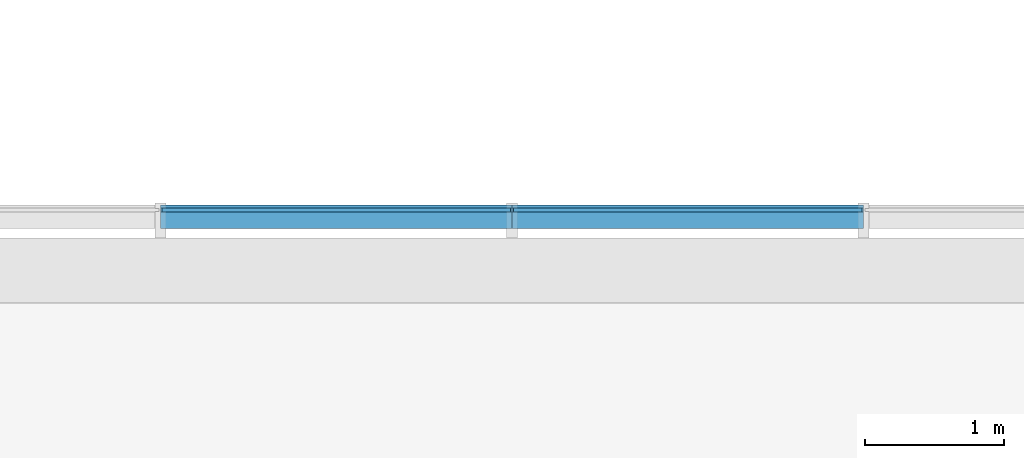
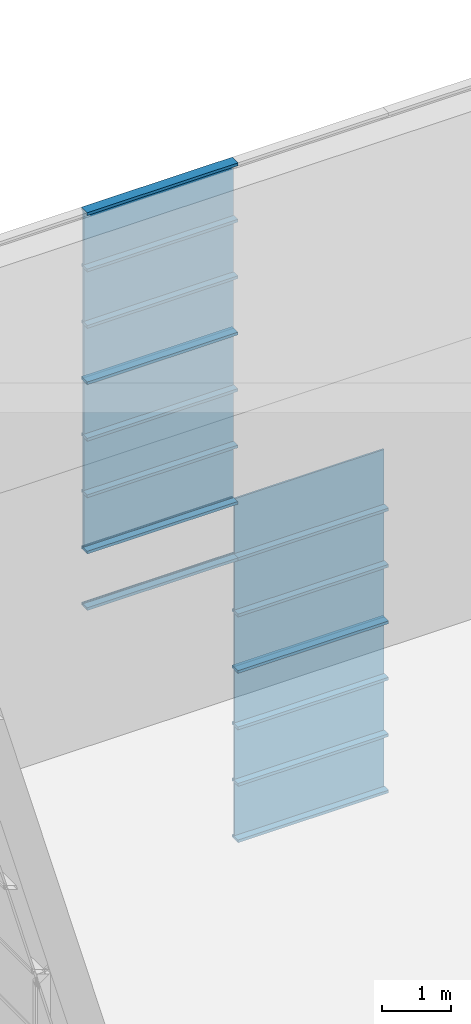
# One storey, part 42 of 105: 29 building element parts, 4 elements without a shape of their own.
"""IFC4 building model written with IfcOpenShell, lengths in millimetres."""

from ifc_helpers import new_model, entity, si_unit, converted_unit, derived_unit, direction, frame, origin_with_axes, place, context, subcontext, project, spatial, triangles, material, element, aggregate, save


model = new_model("IFC4")

# Units and contexts
model_context = context("Model", 3, precision=1e-05, world=origin_with_axes(), true_north=direction((0.0, 1.0)))
body_context = subcontext(model_context, "Body", "Model", "MODEL_VIEW")
ifc_project = project(units=[si_unit("LENGTHUNIT", "METRE", prefix="MILLI"), si_unit("AREAUNIT", "SQUARE_METRE"), si_unit("VOLUMEUNIT", "CUBIC_METRE"), converted_unit("PLANEANGLEUNIT", "DEGREE", entity("IfcLengthMeasure", 0.017453), si_unit("PLANEANGLEUNIT", "RADIAN"), dimensions=[0, 0, 0, 0, 0, 0, 0]), si_unit("SOLIDANGLEUNIT", "STERADIAN"), si_unit("MASSUNIT", "GRAM"), si_unit("TIMEUNIT", "SECOND"), si_unit("THERMODYNAMICTEMPERATUREUNIT", "DEGREE_CELSIUS"), si_unit("LUMINOUSINTENSITYUNIT", "LUMEN"), si_unit("POWERUNIT", "WATT"), derived_unit("THERMALTRANSMITTANCEUNIT", [(si_unit("POWERUNIT", "WATT"), 1), (si_unit("THERMODYNAMICTEMPERATUREUNIT", "KELVIN"), -1), (si_unit("AREAUNIT", "SQUARE_METRE"), -1)])], contexts=[model_context])

# Site, building, storey
site_placement = place(None, origin_with_axes())
site = spatial("IfcSite", under=ifc_project, at=site_placement, Name="Default Site", CompositionType="ELEMENT")
building_placement = place(site_placement, origin_with_axes())
building = spatial("IfcBuilding", under=site, at=building_placement, Name="Default Building", CompositionType="ELEMENT")
storey_placement = place(building_placement, origin_with_axes())
storey = spatial("IfcBuildingStorey", under=building, at=storey_placement, Name="OG - Story", CompositionType="ELEMENT", Elevation=0.0)

# Curtain wall, building element parts
curtain_wall_1_placement = place(storey_placement, origin_with_axes())
curtain_wall_1 = element("IfcCurtainWall", 1, at=curtain_wall_1_placement, inside=storey, Name="Fassade-004", PredefinedType="NOTDEFINED")
ifc_material_1 = material(Name="Normalglas")
building_element_part_1_placement = place(curtain_wall_1_placement, frame((33014.549222, -4389.262838, 0.0), z_axis=(0.0, 0.0, 1.0), x_axis=(1.0, 0.0, 0.0)))
building_element_part_1 = element("IfcBuildingElementPart", 2, at=building_element_part_1_placement, material=ifc_material_1, Name="Normalglas", PredefinedType="NOTDEFINED", context=body_context, shape_type="Tessellation", body=[
    triangles([(8832.105, -14.999, 995.0), (8832.105, 15.0, 995.0), (6325.789, 15.0, 995.0), (6325.789, -14.999, 995.0), (8832.105, -14.999, 5.0), (8832.105, 15.0, 5.0), (6325.789, 15.0, 5.0), (6325.789, -14.999, 5.0)], [[1, 2, 3], [1, 3, 4], [5, 6, 2], [5, 2, 1], [2, 6, 7], [2, 7, 3], [4, 3, 7], [4, 7, 8], [1, 4, 8], [1, 8, 5], [8, 7, 6], [8, 6, 5]], closed=False),
])
building_element_part_2_placement = place(curtain_wall_1_placement, frame((33014.549222, -4389.262838, 0.0), z_axis=(0.0, 0.0, 1.0), x_axis=(1.0, 0.0, 0.0)))
building_element_part_2 = element("IfcBuildingElementPart", 3, at=building_element_part_2_placement, material=ifc_material_1, Name="Normalglas", PredefinedType="NOTDEFINED", context=body_context, shape_type="Tessellation", body=[
    triangles([(8832.105, -14.999, 1995.0), (8832.105, 15.0, 1995.0), (6325.789, 15.0, 1995.0), (6325.789, -14.999, 1995.0), (8832.105, -14.999, 1005.0), (8832.105, 15.0, 1005.0), (6325.789, 15.0, 1005.0), (6325.789, -14.999, 1005.0)], [[1, 2, 3], [1, 3, 4], [5, 6, 2], [5, 2, 1], [2, 6, 7], [2, 7, 3], [4, 3, 7], [4, 7, 8], [1, 4, 8], [1, 8, 5], [8, 7, 6], [8, 6, 5]], closed=False),
])
building_element_part_3_placement = place(curtain_wall_1_placement, frame((33014.549222, -4389.262838, 0.0), z_axis=(0.0, 0.0, 1.0), x_axis=(1.0, 0.0, 0.0)))
building_element_part_3 = element("IfcBuildingElementPart", 4, at=building_element_part_3_placement, material=ifc_material_1, Name="Normalglas", PredefinedType="NOTDEFINED", context=body_context, shape_type="Tessellation", body=[
    triangles([(8832.105, -14.999, 2995.0), (8832.105, 15.0, 2995.0), (6325.789, 15.0, 2995.0), (6325.789, -14.999, 2995.0), (8832.105, -14.999, 2005.0), (8832.105, 15.0, 2005.0), (6325.789, 15.0, 2005.0), (6325.789, -14.999, 2005.0)], [[1, 2, 3], [1, 3, 4], [5, 6, 2], [5, 2, 1], [2, 6, 7], [2, 7, 3], [4, 3, 7], [4, 7, 8], [1, 4, 8], [1, 8, 5], [8, 7, 6], [8, 6, 5]], closed=False),
])
ifc_material_2 = material(Name="Blech")
building_element_part_4_placement = place(curtain_wall_1_placement, frame((33014.549222, -4389.262838, 0.0), z_axis=(0.0, 0.0, 1.0), x_axis=(1.0, 0.0, 0.0)))
building_element_part_4 = element("IfcBuildingElementPart", 5, at=building_element_part_4_placement, material=ifc_material_2, Name="Blech", PredefinedType="NOTDEFINED", context=body_context, shape_type="Tessellation", body=[
    triangles([(8842.105, 35.0, -24.999), (8842.105, 35.0, 25.0), (8842.105, 15.0, 25.0), (8842.105, 15.0, 5.0), (8842.105, -14.999, 5.0), (8842.105, -132.999, 25.0), (8842.105, -132.999, -24.999), (8842.105, -14.999, 25.0), (6315.789, -14.999, 5.0), (6315.789, -14.999, 25.0), (6315.789, -132.999, 25.0), (6315.789, -132.999, -24.999), (6315.789, 35.0, -24.999), (6315.789, 35.0, 25.0), (6315.789, 15.0, 25.0), (6315.789, 15.0, 5.0)], [[1, 2, 3], [1, 3, 4], [1, 4, 5], [1, 5, 6], [1, 6, 7], [8, 6, 5], [5, 9, 10], [5, 10, 8], [10, 11, 6], [10, 6, 8], [11, 12, 7], [11, 7, 6], [12, 13, 1], [12, 1, 7], [13, 14, 2], [13, 2, 1], [3, 2, 14], [3, 14, 15], [15, 16, 4], [15, 4, 3], [4, 16, 9], [4, 9, 5], [15, 16, 13], [13, 16, 9], [13, 9, 11], [11, 9, 10], [13, 11, 12], [15, 13, 14]], closed=False),
])
building_element_part_5_placement = place(curtain_wall_1_placement, frame((33014.549222, -4389.262838, 0.0), z_axis=(0.0, 0.0, 1.0), x_axis=(1.0, 0.0, 0.0)))
building_element_part_5 = element("IfcBuildingElementPart", 6, at=building_element_part_5_placement, material=ifc_material_2, Name="Blech", PredefinedType="NOTDEFINED", context=body_context, shape_type="Tessellation", body=[
    triangles([(8842.105, 35.0, 975.0), (8842.105, 15.0, 975.0), (8842.105, 35.0, 1025.0), (8842.105, 15.0, 995.0), (8842.105, 15.0, 1005.0), (8842.105, -14.999, 995.0), (8842.105, -14.999, 1005.0), (8842.105, -14.999, 1025.0), (8842.105, -14.999, 975.0), (8842.105, -132.999, 975.0), (8842.105, -132.999, 1025.0), (8842.105, 15.0, 1025.0), (6315.789, -14.999, 995.0), (6315.789, 15.0, 995.0), (6315.789, 15.0, 975.0), (6315.789, 35.0, 975.0), (6315.789, 35.0, 1025.0), (6315.789, 15.0, 1025.0), (6315.789, 15.0, 1005.0), (6315.789, -14.999, 1005.0), (6315.789, -14.999, 1025.0), (6315.789, -132.999, 1025.0), (6315.789, -132.999, 975.0), (6315.789, -14.999, 975.0)], [[1, 2, 3], [3, 2, 4], [3, 4, 5], [5, 4, 6], [5, 6, 7], [8, 9, 10], [8, 10, 11], [3, 5, 12], [6, 13, 14], [6, 14, 4], [4, 14, 15], [4, 15, 2], [15, 16, 1], [15, 1, 2], [1, 16, 17], [1, 17, 3], [18, 12, 3], [18, 3, 17], [12, 18, 19], [12, 19, 5], [7, 5, 19], [7, 19, 20], [8, 7, 20], [8, 20, 21], [8, 21, 22], [8, 22, 11], [11, 22, 23], [11, 23, 10], [9, 10, 23], [9, 23, 24], [9, 24, 13], [9, 13, 6], [17, 18, 16], [16, 18, 19], [16, 19, 14], [14, 19, 20], [14, 20, 13], [24, 21, 22], [24, 22, 23], [16, 14, 15]], closed=False),
])
building_element_part_6_placement = place(curtain_wall_1_placement, frame((33014.549222, -4389.262838, 0.0), z_axis=(0.0, 0.0, 1.0), x_axis=(1.0, 0.0, 0.0)))
building_element_part_6 = element("IfcBuildingElementPart", 7, at=building_element_part_6_placement, material=ifc_material_2, Name="Blech", PredefinedType="NOTDEFINED", context=body_context, shape_type="Tessellation", body=[
    triangles([(8842.105, 35.0, 1975.0), (8842.105, 15.0, 1975.0), (8842.105, 35.0, 2025.0), (8842.105, 15.0, 1995.0), (8842.105, 15.0, 2005.0), (8842.105, -14.999, 1995.0), (8842.105, -14.999, 2005.0), (8842.105, -14.999, 2025.0), (8842.105, -14.999, 1975.0), (8842.105, -132.999, 1975.0), (8842.105, -132.999, 2025.0), (8842.105, 15.0, 2025.0), (6315.789, -14.999, 1995.0), (6315.789, 15.0, 1995.0), (6315.789, 15.0, 1975.0), (6315.789, 35.0, 1975.0), (6315.789, 35.0, 2025.0), (6315.789, 15.0, 2025.0), (6315.789, 15.0, 2005.0), (6315.789, -14.999, 2005.0), (6315.789, -14.999, 2025.0), (6315.789, -132.999, 2025.0), (6315.789, -132.999, 1975.0), (6315.789, -14.999, 1975.0)], [[1, 2, 3], [3, 2, 4], [3, 4, 5], [5, 4, 6], [5, 6, 7], [8, 9, 10], [8, 10, 11], [3, 5, 12], [6, 13, 14], [6, 14, 4], [4, 14, 15], [4, 15, 2], [15, 16, 1], [15, 1, 2], [1, 16, 17], [1, 17, 3], [18, 12, 3], [18, 3, 17], [12, 18, 19], [12, 19, 5], [7, 5, 19], [7, 19, 20], [8, 7, 20], [8, 20, 21], [8, 21, 22], [8, 22, 11], [11, 22, 23], [11, 23, 10], [9, 10, 23], [9, 23, 24], [9, 24, 13], [9, 13, 6], [17, 18, 16], [16, 18, 19], [16, 19, 14], [14, 19, 20], [14, 20, 13], [24, 21, 22], [24, 22, 23], [16, 14, 15]], closed=False),
])
building_element_part_7_placement = place(curtain_wall_1_placement, frame((33014.549222, -4389.262838, 0.0), z_axis=(0.0, 0.0, 1.0), x_axis=(1.0, 0.0, 0.0)))
building_element_part_7 = element("IfcBuildingElementPart", 8, at=building_element_part_7_placement, material=ifc_material_2, Name="Blech", PredefinedType="NOTDEFINED", context=body_context, shape_type="Tessellation", body=[
    triangles([(8842.105, 15.0, 2975.0), (8842.105, 15.0, 2995.0), (8842.105, 35.0, 3025.0), (8842.105, -14.999, 2995.0), (8842.105, -132.999, 2975.0), (8842.105, -14.999, 2975.0), (8842.105, -132.999, 3025.0), (8842.105, 35.0, 2975.0), (6315.789, -14.999, 2995.0), (6315.789, 15.0, 2995.0), (6315.789, 15.0, 2975.0), (6315.789, 35.0, 2975.0), (6315.789, 35.0, 3025.0), (6315.789, -132.999, 3025.0), (6315.789, -132.999, 2975.0), (6315.789, -14.999, 2975.0)], [[1, 2, 3], [3, 2, 4], [3, 4, 5], [5, 4, 6], [3, 5, 7], [1, 3, 8], [2, 4, 9], [2, 9, 10], [11, 1, 2], [11, 2, 10], [1, 11, 12], [1, 12, 8], [13, 3, 8], [13, 8, 12], [14, 7, 3], [14, 3, 13], [15, 5, 7], [15, 7, 14], [16, 6, 5], [16, 5, 15], [4, 6, 16], [4, 16, 9], [13, 12, 11], [13, 11, 10], [13, 10, 9], [13, 9, 15], [13, 15, 14], [16, 15, 9]], closed=False),
])
aggregate(curtain_wall_1, [building_element_part_1, building_element_part_2, building_element_part_3, building_element_part_4, building_element_part_5, building_element_part_6, building_element_part_7])

curtain_wall_2_placement = place(storey_placement, origin_with_axes())
curtain_wall_2 = element("IfcCurtainWall", 9, at=curtain_wall_2_placement, inside=storey, Name="Fassade-004", PredefinedType="NOTDEFINED")
building_element_part_8_placement = place(curtain_wall_2_placement, frame((33014.549222, -4389.262838, 3000.0), z_axis=(0.0, 0.0, 1.0), x_axis=(1.0, 0.0, 0.0)))
building_element_part_8 = element("IfcBuildingElementPart", 10, at=building_element_part_8_placement, material=ifc_material_1, Name="Normalglas", PredefinedType="NOTDEFINED", context=body_context, shape_type="Tessellation", body=[
    triangles([(8832.105, -14.999, 995.0), (8832.105, 15.0, 995.0), (6325.789, 15.0, 995.0), (6325.789, -14.999, 995.0), (8832.105, -14.999, 5.0), (8832.105, 15.0, 5.0), (6325.789, 15.0, 5.0), (6325.789, -14.999, 5.0)], [[1, 2, 3], [1, 3, 4], [5, 6, 2], [5, 2, 1], [2, 6, 7], [2, 7, 3], [4, 3, 7], [4, 7, 8], [1, 4, 8], [1, 8, 5], [8, 7, 6], [8, 6, 5]], closed=False),
])
building_element_part_9_placement = place(curtain_wall_2_placement, frame((33014.549222, -4389.262838, 3000.0), z_axis=(0.0, 0.0, 1.0), x_axis=(1.0, 0.0, 0.0)))
building_element_part_9 = element("IfcBuildingElementPart", 11, at=building_element_part_9_placement, material=ifc_material_1, Name="Normalglas", PredefinedType="NOTDEFINED", context=body_context, shape_type="Tessellation", body=[
    triangles([(8832.105, -14.999, 1995.0), (8832.105, 15.0, 1995.0), (6325.789, 15.0, 1995.0), (6325.789, -14.999, 1995.0), (8832.105, -14.999, 1005.0), (8832.105, 15.0, 1005.0), (6325.789, 15.0, 1005.0), (6325.789, -14.999, 1005.0)], [[1, 2, 3], [1, 3, 4], [5, 6, 2], [5, 2, 1], [2, 6, 7], [2, 7, 3], [4, 3, 7], [4, 7, 8], [1, 4, 8], [1, 8, 5], [8, 7, 6], [8, 6, 5]], closed=False),
])
building_element_part_10_placement = place(curtain_wall_2_placement, frame((33014.549222, -4389.262838, 3000.0), z_axis=(0.0, 0.0, 1.0), x_axis=(1.0, 0.0, 0.0)))
building_element_part_10 = element("IfcBuildingElementPart", 12, at=building_element_part_10_placement, material=ifc_material_1, Name="Normalglas", PredefinedType="NOTDEFINED", context=body_context, shape_type="Tessellation", body=[
    triangles([(8832.105, -14.999, 2995.0), (8832.105, 15.0, 2995.0), (6325.789, 15.0, 2995.0), (6325.789, -14.999, 2995.0), (8832.105, -14.999, 2005.0), (8832.105, 15.0, 2005.0), (6325.789, 15.0, 2005.0), (6325.789, -14.999, 2005.0)], [[1, 2, 3], [1, 3, 4], [5, 6, 2], [5, 2, 1], [2, 6, 7], [2, 7, 3], [4, 3, 7], [4, 7, 8], [1, 4, 8], [1, 8, 5], [8, 7, 6], [8, 6, 5]], closed=False),
])
building_element_part_11_placement = place(curtain_wall_2_placement, frame((33014.549222, -4389.262838, 3000.0), z_axis=(0.0, 0.0, 1.0), x_axis=(1.0, 0.0, 0.0)))
building_element_part_11 = element("IfcBuildingElementPart", 13, at=building_element_part_11_placement, material=ifc_material_2, Name="Blech", PredefinedType="NOTDEFINED", context=body_context, shape_type="Tessellation", body=[
    triangles([(8842.105, 35.0, -24.999), (8842.105, 35.0, 25.0), (8842.105, 15.0, 25.0), (8842.105, 15.0, 5.0), (8842.105, -14.999, 5.0), (8842.105, -132.999, 25.0), (8842.105, -132.999, -24.999), (8842.105, -14.999, 25.0), (6315.789, -14.999, 5.0), (6315.789, -14.999, 25.0), (6315.789, -132.999, 25.0), (6315.789, -132.999, -24.999), (6315.789, 35.0, -24.999), (6315.789, 35.0, 25.0), (6315.789, 15.0, 25.0), (6315.789, 15.0, 5.0)], [[1, 2, 3], [1, 3, 4], [1, 4, 5], [1, 5, 6], [1, 6, 7], [8, 6, 5], [5, 9, 10], [5, 10, 8], [10, 11, 6], [10, 6, 8], [11, 12, 7], [11, 7, 6], [12, 13, 1], [12, 1, 7], [13, 14, 2], [13, 2, 1], [3, 2, 14], [3, 14, 15], [15, 16, 4], [15, 4, 3], [4, 16, 9], [4, 9, 5], [15, 16, 13], [13, 16, 9], [13, 9, 11], [11, 9, 10], [13, 11, 12], [15, 13, 14]], closed=False),
])
building_element_part_12_placement = place(curtain_wall_2_placement, frame((33014.549222, -4389.262838, 3000.0), z_axis=(0.0, 0.0, 1.0), x_axis=(1.0, 0.0, 0.0)))
building_element_part_12 = element("IfcBuildingElementPart", 14, at=building_element_part_12_placement, material=ifc_material_2, Name="Blech", PredefinedType="NOTDEFINED", context=body_context, shape_type="Tessellation", body=[
    triangles([(8842.105, 35.0, 975.0), (8842.105, 15.0, 975.0), (8842.105, 35.0, 1025.0), (8842.105, 15.0, 995.0), (8842.105, 15.0, 1005.0), (8842.105, -14.999, 995.0), (8842.105, -14.999, 1005.0), (8842.105, -14.999, 1025.0), (8842.105, -14.999, 975.0), (8842.105, -132.999, 975.0), (8842.105, -132.999, 1025.0), (8842.105, 15.0, 1025.0), (6315.789, -14.999, 995.0), (6315.789, 15.0, 995.0), (6315.789, 15.0, 975.0), (6315.789, 35.0, 975.0), (6315.789, 35.0, 1025.0), (6315.789, 15.0, 1025.0), (6315.789, 15.0, 1005.0), (6315.789, -14.999, 1005.0), (6315.789, -14.999, 1025.0), (6315.789, -132.999, 1025.0), (6315.789, -132.999, 975.0), (6315.789, -14.999, 975.0)], [[1, 2, 3], [3, 2, 4], [3, 4, 5], [5, 4, 6], [5, 6, 7], [8, 9, 10], [8, 10, 11], [3, 5, 12], [6, 13, 14], [6, 14, 4], [4, 14, 15], [4, 15, 2], [15, 16, 1], [15, 1, 2], [1, 16, 17], [1, 17, 3], [18, 12, 3], [18, 3, 17], [12, 18, 19], [12, 19, 5], [7, 5, 19], [7, 19, 20], [8, 7, 20], [8, 20, 21], [8, 21, 22], [8, 22, 11], [11, 22, 23], [11, 23, 10], [9, 10, 23], [9, 23, 24], [9, 24, 13], [9, 13, 6], [17, 18, 16], [16, 18, 19], [16, 19, 14], [14, 19, 20], [14, 20, 13], [24, 21, 22], [24, 22, 23], [16, 14, 15]], closed=False),
])
building_element_part_13_placement = place(curtain_wall_2_placement, frame((33014.549222, -4389.262838, 3000.0), z_axis=(0.0, 0.0, 1.0), x_axis=(1.0, 0.0, 0.0)))
building_element_part_13 = element("IfcBuildingElementPart", 15, at=building_element_part_13_placement, material=ifc_material_2, Name="Blech", PredefinedType="NOTDEFINED", context=body_context, shape_type="Tessellation", body=[
    triangles([(6315.789, 35.0, 1975.0), (6315.789, 15.0, 1975.0), (6315.789, 35.0, 2025.0), (6315.789, 15.0, 1995.0), (6315.789, 15.0, 2005.0), (6315.789, -14.999, 1995.0), (6315.789, -14.999, 2005.0), (6315.789, -14.999, 2025.0), (6315.789, -14.999, 1975.0), (6315.789, -132.999, 1975.0), (6315.789, -132.999, 2025.0), (6315.789, 15.0, 2025.0), (3789.474, -14.999, 1995.0), (3789.474, 15.0, 1995.0), (3789.474, 15.0, 1975.0), (3789.474, 35.0, 1975.0), (3789.474, 35.0, 2025.0), (3789.474, 15.0, 2025.0), (3789.474, 15.0, 2005.0), (3789.474, -14.999, 2005.0), (3789.474, -14.999, 2025.0), (3789.474, -132.999, 2025.0), (3789.474, -132.999, 1975.0), (3789.474, -14.999, 1975.0)], [[1, 2, 3], [3, 2, 4], [3, 4, 5], [5, 4, 6], [5, 6, 7], [8, 9, 10], [8, 10, 11], [3, 5, 12], [6, 13, 14], [6, 14, 4], [4, 14, 15], [4, 15, 2], [15, 16, 1], [15, 1, 2], [1, 16, 17], [1, 17, 3], [18, 12, 3], [18, 3, 17], [12, 18, 19], [12, 19, 5], [7, 5, 19], [7, 19, 20], [8, 7, 20], [8, 20, 21], [8, 21, 22], [8, 22, 11], [11, 22, 23], [11, 23, 10], [9, 10, 23], [9, 23, 24], [9, 24, 13], [9, 13, 6], [17, 18, 16], [16, 18, 19], [16, 19, 14], [14, 19, 20], [14, 20, 13], [24, 21, 22], [24, 22, 23], [16, 14, 15]], closed=False),
])
building_element_part_14_placement = place(curtain_wall_2_placement, frame((33014.549222, -4389.262838, 3000.0), z_axis=(0.0, 0.0, 1.0), x_axis=(1.0, 0.0, 0.0)))
building_element_part_14 = element("IfcBuildingElementPart", 16, at=building_element_part_14_placement, material=ifc_material_2, Name="Blech", PredefinedType="NOTDEFINED", context=body_context, shape_type="Tessellation", body=[
    triangles([(6315.789, 15.0, 2975.0), (6315.789, 15.0, 2995.0), (6315.789, 35.0, 3025.0), (6315.789, -14.999, 2995.0), (6315.789, -132.999, 2975.0), (6315.789, -14.999, 2975.0), (6315.789, -132.999, 3025.0), (6315.789, 35.0, 2975.0), (3789.474, -14.999, 2995.0), (3789.474, 15.0, 2995.0), (3789.474, 15.0, 2975.0), (3789.474, 35.0, 2975.0), (3789.474, 35.0, 3025.0), (3789.474, -132.999, 3025.0), (3789.474, -132.999, 2975.0), (3789.474, -14.999, 2975.0)], [[1, 2, 3], [3, 2, 4], [3, 4, 5], [5, 4, 6], [3, 5, 7], [1, 3, 8], [2, 4, 9], [2, 9, 10], [11, 1, 2], [11, 2, 10], [1, 11, 12], [1, 12, 8], [13, 3, 8], [13, 8, 12], [14, 7, 3], [14, 3, 13], [15, 5, 7], [15, 7, 14], [16, 6, 5], [16, 5, 15], [4, 6, 16], [4, 16, 9], [13, 12, 11], [13, 11, 10], [13, 10, 9], [13, 9, 15], [13, 15, 14], [16, 15, 9]], closed=False),
])
building_element_part_15_placement = place(curtain_wall_2_placement, frame((33014.549222, -4389.262838, 3000.0), z_axis=(0.0, 0.0, 1.0), x_axis=(1.0, 0.0, 0.0)))
building_element_part_15 = element("IfcBuildingElementPart", 17, at=building_element_part_15_placement, material=ifc_material_2, Name="Blech", PredefinedType="NOTDEFINED", context=body_context, shape_type="Tessellation", body=[
    triangles([(8842.105, 35.0, 1975.0), (8842.105, 15.0, 1975.0), (8842.105, 35.0, 2025.0), (8842.105, 15.0, 1995.0), (8842.105, 15.0, 2005.0), (8842.105, -14.999, 1995.0), (8842.105, -14.999, 2005.0), (8842.105, -14.999, 2025.0), (8842.105, -14.999, 1975.0), (8842.105, -132.999, 1975.0), (8842.105, -132.999, 2025.0), (8842.105, 15.0, 2025.0), (6315.789, -14.999, 1995.0), (6315.789, 15.0, 1995.0), (6315.789, 15.0, 1975.0), (6315.789, 35.0, 1975.0), (6315.789, 35.0, 2025.0), (6315.789, 15.0, 2025.0), (6315.789, 15.0, 2005.0), (6315.789, -14.999, 2005.0), (6315.789, -14.999, 2025.0), (6315.789, -132.999, 2025.0), (6315.789, -132.999, 1975.0), (6315.789, -14.999, 1975.0)], [[1, 2, 3], [3, 2, 4], [3, 4, 5], [5, 4, 6], [5, 6, 7], [8, 9, 10], [8, 10, 11], [3, 5, 12], [6, 13, 14], [6, 14, 4], [4, 14, 15], [4, 15, 2], [15, 16, 1], [15, 1, 2], [1, 16, 17], [1, 17, 3], [18, 12, 3], [18, 3, 17], [12, 18, 19], [12, 19, 5], [7, 5, 19], [7, 19, 20], [8, 7, 20], [8, 20, 21], [8, 21, 22], [8, 22, 11], [11, 22, 23], [11, 23, 10], [9, 10, 23], [9, 23, 24], [9, 24, 13], [9, 13, 6], [17, 18, 16], [16, 18, 19], [16, 19, 14], [14, 19, 20], [14, 20, 13], [24, 21, 22], [24, 22, 23], [16, 14, 15]], closed=False),
])
aggregate(curtain_wall_2, [building_element_part_8, building_element_part_9, building_element_part_10, building_element_part_11, building_element_part_12, building_element_part_13, building_element_part_14, building_element_part_15])

curtain_wall_3_placement = place(storey_placement, origin_with_axes())
curtain_wall_3 = element("IfcCurtainWall", 18, at=curtain_wall_3_placement, inside=storey, Name="Fassade-004", PredefinedType="NOTDEFINED")
building_element_part_16_placement = place(curtain_wall_3_placement, frame((33014.549222, -4389.262838, 6000.0), z_axis=(0.0, 0.0, 1.0), x_axis=(1.0, 0.0, 0.0)))
building_element_part_16 = element("IfcBuildingElementPart", 19, at=building_element_part_16_placement, material=ifc_material_1, Name="Normalglas", PredefinedType="NOTDEFINED", context=body_context, shape_type="Tessellation", body=[
    triangles([(6305.789, -14.999, 995.0), (6305.789, 15.0, 995.0), (3799.474, 15.0, 995.0), (3799.474, -14.999, 995.0), (6305.789, -14.999, 5.0), (6305.789, 15.0, 5.0), (3799.474, 15.0, 5.0), (3799.474, -14.999, 5.0)], [[1, 2, 3], [1, 3, 4], [5, 6, 2], [5, 2, 1], [2, 6, 7], [2, 7, 3], [4, 3, 7], [4, 7, 8], [1, 4, 8], [1, 8, 5], [8, 7, 6], [8, 6, 5]], closed=False),
])
building_element_part_17_placement = place(curtain_wall_3_placement, frame((33014.549222, -4389.262838, 6000.0), z_axis=(0.0, 0.0, 1.0), x_axis=(1.0, 0.0, 0.0)))
building_element_part_17 = element("IfcBuildingElementPart", 20, at=building_element_part_17_placement, material=ifc_material_1, Name="Normalglas", PredefinedType="NOTDEFINED", context=body_context, shape_type="Tessellation", body=[
    triangles([(6305.789, -14.999, 1995.0), (6305.789, 15.0, 1995.0), (3799.474, 15.0, 1995.0), (3799.474, -14.999, 1995.0), (6305.789, -14.999, 1005.0), (6305.789, 15.0, 1005.0), (3799.474, 15.0, 1005.0), (3799.474, -14.999, 1005.0)], [[1, 2, 3], [1, 3, 4], [5, 6, 2], [5, 2, 1], [2, 6, 7], [2, 7, 3], [4, 3, 7], [4, 7, 8], [1, 4, 8], [1, 8, 5], [8, 7, 6], [8, 6, 5]], closed=False),
])
building_element_part_18_placement = place(curtain_wall_3_placement, frame((33014.549222, -4389.262838, 6000.0), z_axis=(0.0, 0.0, 1.0), x_axis=(1.0, 0.0, 0.0)))
building_element_part_18 = element("IfcBuildingElementPart", 21, at=building_element_part_18_placement, material=ifc_material_1, Name="Normalglas", PredefinedType="NOTDEFINED", context=body_context, shape_type="Tessellation", body=[
    triangles([(6305.789, -14.999, 2995.0), (6305.789, 15.0, 2995.0), (3799.474, 15.0, 2995.0), (3799.474, -14.999, 2995.0), (6305.789, -14.999, 2005.0), (6305.789, 15.0, 2005.0), (3799.474, 15.0, 2005.0), (3799.474, -14.999, 2005.0)], [[1, 2, 3], [1, 3, 4], [5, 6, 2], [5, 2, 1], [2, 6, 7], [2, 7, 3], [4, 3, 7], [4, 7, 8], [1, 4, 8], [1, 8, 5], [8, 7, 6], [8, 6, 5]], closed=False),
])
building_element_part_19_placement = place(curtain_wall_3_placement, frame((33014.549222, -4389.262838, 6000.0), z_axis=(0.0, 0.0, 1.0), x_axis=(1.0, 0.0, 0.0)))
building_element_part_19 = element("IfcBuildingElementPart", 22, at=building_element_part_19_placement, material=ifc_material_2, Name="Blech", PredefinedType="NOTDEFINED", context=body_context, shape_type="Tessellation", body=[
    triangles([(6315.789, 35.0, -24.999), (6315.789, 35.0, 25.0), (6315.789, 15.0, 25.0), (6315.789, 15.0, 5.0), (6315.789, -14.999, 5.0), (6315.789, -132.999, 25.0), (6315.789, -132.999, -24.999), (6315.789, -14.999, 25.0), (3789.474, -14.999, 5.0), (3789.474, -14.999, 25.0), (3789.474, -132.999, 25.0), (3789.474, -132.999, -24.999), (3789.474, 35.0, -24.999), (3789.474, 35.0, 25.0), (3789.474, 15.0, 25.0), (3789.474, 15.0, 5.0)], [[1, 2, 3], [1, 3, 4], [1, 4, 5], [1, 5, 6], [1, 6, 7], [8, 6, 5], [5, 9, 10], [5, 10, 8], [10, 11, 6], [10, 6, 8], [11, 12, 7], [11, 7, 6], [12, 13, 1], [12, 1, 7], [13, 14, 2], [13, 2, 1], [3, 2, 14], [3, 14, 15], [15, 16, 4], [15, 4, 3], [4, 16, 9], [4, 9, 5], [15, 16, 13], [13, 16, 9], [13, 9, 11], [11, 9, 10], [13, 11, 12], [15, 13, 14]], closed=False),
])
building_element_part_20_placement = place(curtain_wall_3_placement, frame((33014.549222, -4389.262838, 6000.0), z_axis=(0.0, 0.0, 1.0), x_axis=(1.0, 0.0, 0.0)))
building_element_part_20 = element("IfcBuildingElementPart", 23, at=building_element_part_20_placement, material=ifc_material_2, Name="Blech", PredefinedType="NOTDEFINED", context=body_context, shape_type="Tessellation", body=[
    triangles([(6315.789, 35.0, 975.0), (6315.789, 15.0, 975.0), (6315.789, 35.0, 1025.0), (6315.789, 15.0, 995.0), (6315.789, 15.0, 1005.0), (6315.789, -14.999, 995.0), (6315.789, -14.999, 1005.0), (6315.789, -14.999, 1025.0), (6315.789, -14.999, 975.0), (6315.789, -132.999, 975.0), (6315.789, -132.999, 1025.0), (6315.789, 15.0, 1025.0), (3789.474, -14.999, 995.0), (3789.474, 15.0, 995.0), (3789.474, 15.0, 975.0), (3789.474, 35.0, 975.0), (3789.474, 35.0, 1025.0), (3789.474, 15.0, 1025.0), (3789.474, 15.0, 1005.0), (3789.474, -14.999, 1005.0), (3789.474, -14.999, 1025.0), (3789.474, -132.999, 1025.0), (3789.474, -132.999, 975.0), (3789.474, -14.999, 975.0)], [[1, 2, 3], [3, 2, 4], [3, 4, 5], [5, 4, 6], [5, 6, 7], [8, 9, 10], [8, 10, 11], [3, 5, 12], [6, 13, 14], [6, 14, 4], [4, 14, 15], [4, 15, 2], [15, 16, 1], [15, 1, 2], [1, 16, 17], [1, 17, 3], [18, 12, 3], [18, 3, 17], [12, 18, 19], [12, 19, 5], [7, 5, 19], [7, 19, 20], [8, 7, 20], [8, 20, 21], [8, 21, 22], [8, 22, 11], [11, 22, 23], [11, 23, 10], [9, 10, 23], [9, 23, 24], [9, 24, 13], [9, 13, 6], [17, 18, 16], [16, 18, 19], [16, 19, 14], [14, 19, 20], [14, 20, 13], [24, 21, 22], [24, 22, 23], [16, 14, 15]], closed=False),
])
building_element_part_21_placement = place(curtain_wall_3_placement, frame((33014.549222, -4389.262838, 6000.0), z_axis=(0.0, 0.0, 1.0), x_axis=(1.0, 0.0, 0.0)))
building_element_part_21 = element("IfcBuildingElementPart", 24, at=building_element_part_21_placement, material=ifc_material_2, Name="Blech", PredefinedType="NOTDEFINED", context=body_context, shape_type="Tessellation", body=[
    triangles([(6315.789, 35.0, 1975.0), (6315.789, 15.0, 1975.0), (6315.789, 35.0, 2025.0), (6315.789, 15.0, 1995.0), (6315.789, 15.0, 2005.0), (6315.789, -14.999, 1995.0), (6315.789, -14.999, 2005.0), (6315.789, -14.999, 2025.0), (6315.789, -14.999, 1975.0), (6315.789, -132.999, 1975.0), (6315.789, -132.999, 2025.0), (6315.789, 15.0, 2025.0), (3789.474, -14.999, 1995.0), (3789.474, 15.0, 1995.0), (3789.474, 15.0, 1975.0), (3789.474, 35.0, 1975.0), (3789.474, 35.0, 2025.0), (3789.474, 15.0, 2025.0), (3789.474, 15.0, 2005.0), (3789.474, -14.999, 2005.0), (3789.474, -14.999, 2025.0), (3789.474, -132.999, 2025.0), (3789.474, -132.999, 1975.0), (3789.474, -14.999, 1975.0)], [[1, 2, 3], [3, 2, 4], [3, 4, 5], [5, 4, 6], [5, 6, 7], [8, 9, 10], [8, 10, 11], [3, 5, 12], [6, 13, 14], [6, 14, 4], [4, 14, 15], [4, 15, 2], [15, 16, 1], [15, 1, 2], [1, 16, 17], [1, 17, 3], [18, 12, 3], [18, 3, 17], [12, 18, 19], [12, 19, 5], [7, 5, 19], [7, 19, 20], [8, 7, 20], [8, 20, 21], [8, 21, 22], [8, 22, 11], [11, 22, 23], [11, 23, 10], [9, 10, 23], [9, 23, 24], [9, 24, 13], [9, 13, 6], [17, 18, 16], [16, 18, 19], [16, 19, 14], [14, 19, 20], [14, 20, 13], [24, 21, 22], [24, 22, 23], [16, 14, 15]], closed=False),
])
building_element_part_22_placement = place(curtain_wall_3_placement, frame((33014.549222, -4389.262838, 6000.0), z_axis=(0.0, 0.0, 1.0), x_axis=(1.0, 0.0, 0.0)))
building_element_part_22 = element("IfcBuildingElementPart", 25, at=building_element_part_22_placement, material=ifc_material_2, Name="Blech", PredefinedType="NOTDEFINED", context=body_context, shape_type="Tessellation", body=[
    triangles([(6315.789, 15.0, 2975.0), (6315.789, 15.0, 2995.0), (6315.789, 35.0, 3025.0), (6315.789, -14.999, 2995.0), (6315.789, -132.999, 2975.0), (6315.789, -14.999, 2975.0), (6315.789, -132.999, 3025.0), (6315.789, 35.0, 2975.0), (3789.474, -14.999, 2995.0), (3789.474, 15.0, 2995.0), (3789.474, 15.0, 2975.0), (3789.474, 35.0, 2975.0), (3789.474, 35.0, 3025.0), (3789.474, -132.999, 3025.0), (3789.474, -132.999, 2975.0), (3789.474, -14.999, 2975.0)], [[1, 2, 3], [3, 2, 4], [3, 4, 5], [5, 4, 6], [3, 5, 7], [1, 3, 8], [2, 4, 9], [2, 9, 10], [11, 1, 2], [11, 2, 10], [1, 11, 12], [1, 12, 8], [13, 3, 8], [13, 8, 12], [14, 7, 3], [14, 3, 13], [15, 5, 7], [15, 7, 14], [16, 6, 5], [16, 5, 15], [4, 6, 16], [4, 16, 9], [13, 12, 11], [13, 11, 10], [13, 10, 9], [13, 9, 15], [13, 15, 14], [16, 15, 9]], closed=False),
])
aggregate(curtain_wall_3, [building_element_part_16, building_element_part_17, building_element_part_18, building_element_part_19, building_element_part_20, building_element_part_21, building_element_part_22])

curtain_wall_4_placement = place(storey_placement, origin_with_axes())
curtain_wall_4 = element("IfcCurtainWall", 26, at=curtain_wall_4_placement, inside=storey, Name="Fassade-004", PredefinedType="NOTDEFINED")
building_element_part_23_placement = place(curtain_wall_4_placement, frame((33014.549222, -4389.262838, 9000.0), z_axis=(0.0, 0.0, 1.0), x_axis=(1.0, 0.0, 0.0)))
building_element_part_23 = element("IfcBuildingElementPart", 27, at=building_element_part_23_placement, material=ifc_material_1, Name="Normalglas", PredefinedType="NOTDEFINED", context=body_context, shape_type="Tessellation", body=[
    triangles([(6305.789, -14.999, 995.0), (6305.789, 15.0, 995.0), (3799.474, 15.0, 995.0), (3799.474, -14.999, 995.0), (6305.789, -14.999, 5.0), (6305.789, 15.0, 5.0), (3799.474, 15.0, 5.0), (3799.474, -14.999, 5.0)], [[1, 2, 3], [1, 3, 4], [5, 6, 2], [5, 2, 1], [2, 6, 7], [2, 7, 3], [4, 3, 7], [4, 7, 8], [1, 4, 8], [1, 8, 5], [8, 7, 6], [8, 6, 5]], closed=False),
])
building_element_part_24_placement = place(curtain_wall_4_placement, frame((33014.549222, -4389.262838, 9000.0), z_axis=(0.0, 0.0, 1.0), x_axis=(1.0, 0.0, 0.0)))
building_element_part_24 = element("IfcBuildingElementPart", 28, at=building_element_part_24_placement, material=ifc_material_1, Name="Normalglas", PredefinedType="NOTDEFINED", context=body_context, shape_type="Tessellation", body=[
    triangles([(6305.789, -14.999, 1995.0), (6305.789, 15.0, 1995.0), (3799.474, 15.0, 1995.0), (3799.474, -14.999, 1995.0), (6305.789, -14.999, 1005.0), (6305.789, 15.0, 1005.0), (3799.474, 15.0, 1005.0), (3799.474, -14.999, 1005.0)], [[1, 2, 3], [1, 3, 4], [5, 6, 2], [5, 2, 1], [2, 6, 7], [2, 7, 3], [4, 3, 7], [4, 7, 8], [1, 4, 8], [1, 8, 5], [8, 7, 6], [8, 6, 5]], closed=False),
])
building_element_part_25_placement = place(curtain_wall_4_placement, frame((33014.549222, -4389.262838, 9000.0), z_axis=(0.0, 0.0, 1.0), x_axis=(1.0, 0.0, 0.0)))
building_element_part_25 = element("IfcBuildingElementPart", 29, at=building_element_part_25_placement, material=ifc_material_1, Name="Normalglas", PredefinedType="NOTDEFINED", context=body_context, shape_type="Tessellation", body=[
    triangles([(6305.789, -14.999, 2995.0), (6305.789, 15.0, 2995.0), (3799.474, 15.0, 2995.0), (3799.474, -14.999, 2995.0), (6305.789, -14.999, 2005.0), (6305.789, 15.0, 2005.0), (3799.474, 15.0, 2005.0), (3799.474, -14.999, 2005.0)], [[1, 2, 3], [1, 3, 4], [5, 6, 2], [5, 2, 1], [2, 6, 7], [2, 7, 3], [4, 3, 7], [4, 7, 8], [1, 4, 8], [1, 8, 5], [8, 7, 6], [8, 6, 5]], closed=False),
])
building_element_part_26_placement = place(curtain_wall_4_placement, frame((33014.549222, -4389.262838, 9000.0), z_axis=(0.0, 0.0, 1.0), x_axis=(1.0, 0.0, 0.0)))
building_element_part_26 = element("IfcBuildingElementPart", 30, at=building_element_part_26_placement, material=ifc_material_2, Name="Blech", PredefinedType="NOTDEFINED", context=body_context, shape_type="Tessellation", body=[
    triangles([(6315.789, 35.0, -24.999), (6315.789, 35.0, 25.0), (6315.789, 15.0, 25.0), (6315.789, 15.0, 5.0), (6315.789, -14.999, 5.0), (6315.789, -132.999, 25.0), (6315.789, -132.999, -24.999), (6315.789, -14.999, 25.0), (3789.474, -14.999, 5.0), (3789.474, -14.999, 25.0), (3789.474, -132.999, 25.0), (3789.474, -132.999, -24.999), (3789.474, 35.0, -24.999), (3789.474, 35.0, 25.0), (3789.474, 15.0, 25.0), (3789.474, 15.0, 5.0)], [[1, 2, 3], [1, 3, 4], [1, 4, 5], [1, 5, 6], [1, 6, 7], [8, 6, 5], [5, 9, 10], [5, 10, 8], [10, 11, 6], [10, 6, 8], [11, 12, 7], [11, 7, 6], [12, 13, 1], [12, 1, 7], [13, 14, 2], [13, 2, 1], [3, 2, 14], [3, 14, 15], [15, 16, 4], [15, 4, 3], [4, 16, 9], [4, 9, 5], [15, 16, 13], [13, 16, 9], [13, 9, 11], [11, 9, 10], [13, 11, 12], [15, 13, 14]], closed=False),
])
building_element_part_27_placement = place(curtain_wall_4_placement, frame((33014.549222, -4389.262838, 9000.0), z_axis=(0.0, 0.0, 1.0), x_axis=(1.0, 0.0, 0.0)))
building_element_part_27 = element("IfcBuildingElementPart", 31, at=building_element_part_27_placement, material=ifc_material_2, Name="Blech", PredefinedType="NOTDEFINED", context=body_context, shape_type="Tessellation", body=[
    triangles([(6315.789, 35.0, 975.0), (6315.789, 15.0, 975.0), (6315.789, 35.0, 1025.0), (6315.789, 15.0, 995.0), (6315.789, 15.0, 1005.0), (6315.789, -14.999, 995.0), (6315.789, -14.999, 1005.0), (6315.789, -14.999, 1025.0), (6315.789, -14.999, 975.0), (6315.789, -132.999, 975.0), (6315.789, -132.999, 1025.0), (6315.789, 15.0, 1025.0), (3789.474, -14.999, 995.0), (3789.474, 15.0, 995.0), (3789.474, 15.0, 975.0), (3789.474, 35.0, 975.0), (3789.474, 35.0, 1025.0), (3789.474, 15.0, 1025.0), (3789.474, 15.0, 1005.0), (3789.474, -14.999, 1005.0), (3789.474, -14.999, 1025.0), (3789.474, -132.999, 1025.0), (3789.474, -132.999, 975.0), (3789.474, -14.999, 975.0)], [[1, 2, 3], [3, 2, 4], [3, 4, 5], [5, 4, 6], [5, 6, 7], [8, 9, 10], [8, 10, 11], [3, 5, 12], [6, 13, 14], [6, 14, 4], [4, 14, 15], [4, 15, 2], [15, 16, 1], [15, 1, 2], [1, 16, 17], [1, 17, 3], [18, 12, 3], [18, 3, 17], [12, 18, 19], [12, 19, 5], [7, 5, 19], [7, 19, 20], [8, 7, 20], [8, 20, 21], [8, 21, 22], [8, 22, 11], [11, 22, 23], [11, 23, 10], [9, 10, 23], [9, 23, 24], [9, 24, 13], [9, 13, 6], [17, 18, 16], [16, 18, 19], [16, 19, 14], [14, 19, 20], [14, 20, 13], [24, 21, 22], [24, 22, 23], [16, 14, 15]], closed=False),
])
building_element_part_28_placement = place(curtain_wall_4_placement, frame((33014.549222, -4389.262838, 9000.0), z_axis=(0.0, 0.0, 1.0), x_axis=(1.0, 0.0, 0.0)))
building_element_part_28 = element("IfcBuildingElementPart", 32, at=building_element_part_28_placement, material=ifc_material_2, Name="Blech", PredefinedType="NOTDEFINED", context=body_context, shape_type="Tessellation", body=[
    triangles([(6315.789, 35.0, 1975.0), (6315.789, 15.0, 1975.0), (6315.789, 35.0, 2025.0), (6315.789, 15.0, 1995.0), (6315.789, 15.0, 2005.0), (6315.789, -14.999, 1995.0), (6315.789, -14.999, 2005.0), (6315.789, -14.999, 2025.0), (6315.789, -14.999, 1975.0), (6315.789, -132.999, 1975.0), (6315.789, -132.999, 2025.0), (6315.789, 15.0, 2025.0), (3789.474, -14.999, 1995.0), (3789.474, 15.0, 1995.0), (3789.474, 15.0, 1975.0), (3789.474, 35.0, 1975.0), (3789.474, 35.0, 2025.0), (3789.474, 15.0, 2025.0), (3789.474, 15.0, 2005.0), (3789.474, -14.999, 2005.0), (3789.474, -14.999, 2025.0), (3789.474, -132.999, 2025.0), (3789.474, -132.999, 1975.0), (3789.474, -14.999, 1975.0)], [[1, 2, 3], [3, 2, 4], [3, 4, 5], [5, 4, 6], [5, 6, 7], [8, 9, 10], [8, 10, 11], [3, 5, 12], [6, 13, 14], [6, 14, 4], [4, 14, 15], [4, 15, 2], [15, 16, 1], [15, 1, 2], [1, 16, 17], [1, 17, 3], [18, 12, 3], [18, 3, 17], [12, 18, 19], [12, 19, 5], [7, 5, 19], [7, 19, 20], [8, 7, 20], [8, 20, 21], [8, 21, 22], [8, 22, 11], [11, 22, 23], [11, 23, 10], [9, 10, 23], [9, 23, 24], [9, 24, 13], [9, 13, 6], [17, 18, 16], [16, 18, 19], [16, 19, 14], [14, 19, 20], [14, 20, 13], [24, 21, 22], [24, 22, 23], [16, 14, 15]], closed=False),
])
building_element_part_29_placement = place(curtain_wall_4_placement, frame((33014.549222, -4389.262838, 9000.0), z_axis=(0.0, 0.0, 1.0), x_axis=(1.0, 0.0, 0.0)))
building_element_part_29 = element("IfcBuildingElementPart", 33, at=building_element_part_29_placement, material=ifc_material_2, Name="Blech", PredefinedType="NOTDEFINED", context=body_context, shape_type="Tessellation", body=[
    triangles([(6315.789, 15.0, 2975.0), (6315.789, 15.0, 2995.0), (6315.789, 35.0, 3025.0), (6315.789, -14.999, 2995.0), (6315.789, -132.999, 2975.0), (6315.789, -14.999, 2975.0), (6315.789, -132.999, 3025.0), (6315.789, 35.0, 2975.0), (3789.474, -14.999, 2995.0), (3789.474, 15.0, 2995.0), (3789.474, 15.0, 2975.0), (3789.474, 35.0, 2975.0), (3789.474, 35.0, 3025.0), (3789.474, -132.999, 3025.0), (3789.474, -132.999, 2975.0), (3789.474, -14.999, 2975.0)], [[1, 2, 3], [3, 2, 4], [3, 4, 5], [5, 4, 6], [3, 5, 7], [1, 3, 8], [2, 4, 9], [2, 9, 10], [11, 1, 2], [11, 2, 10], [1, 11, 12], [1, 12, 8], [13, 3, 8], [13, 8, 12], [14, 7, 3], [14, 3, 13], [15, 5, 7], [15, 7, 14], [16, 6, 5], [16, 5, 15], [4, 6, 16], [4, 16, 9], [13, 12, 11], [13, 11, 10], [13, 10, 9], [13, 9, 15], [13, 15, 14], [16, 15, 9]], closed=False),
])
aggregate(curtain_wall_4, [building_element_part_23, building_element_part_24, building_element_part_25, building_element_part_26, building_element_part_27, building_element_part_28, building_element_part_29])

save(model, "model.ifc")
